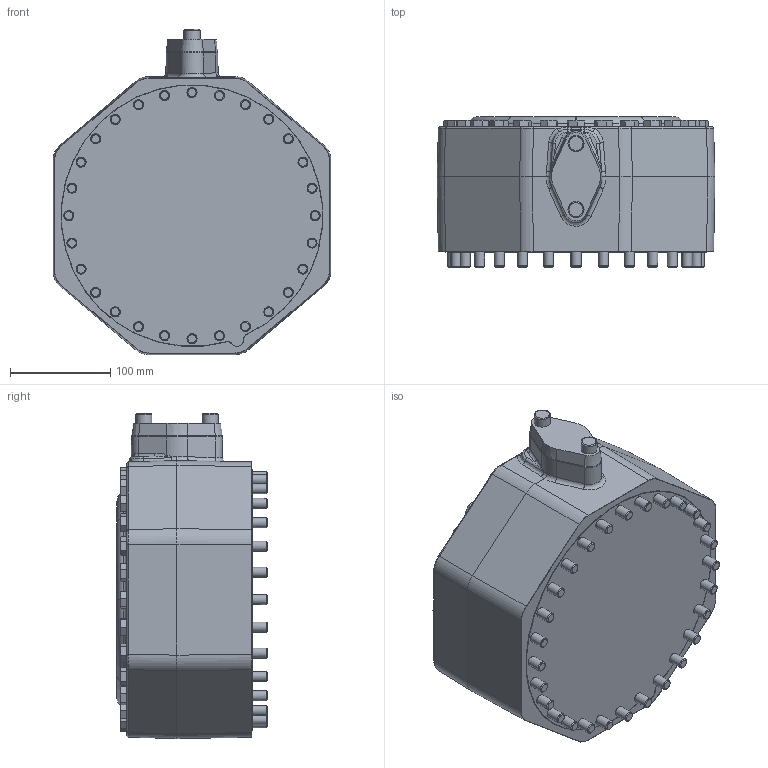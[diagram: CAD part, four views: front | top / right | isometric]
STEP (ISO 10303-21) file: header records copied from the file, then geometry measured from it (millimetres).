
FILE_DESCRIPTION(/* description */ (''),/* implementation_level */ '2;1');
FILE_NAME(/* name */ '4GTEU30-4FTEU30-4DTEU-4CTEU.stp',/* time_stamp */ '2023-11-09T10:32:36+01:00',/* author */ (''),/* organization */ (''),/* preprocessor_version */ 'ST-DEVELOPER v19.3',/* originating_system */ 'SIEMENS PLM Software NX2212.3001',/* authorisation */ '');
FILE_SCHEMA (('AUTOMOTIVE_DESIGN { 1 0 10303 214 3 1 1 1 }'));
Length unit declared in the file: millimetre
Products named in the file (3): BLIND-FLANGE-OVAL; HOUSING-COVER-CKH4-DEEP-ROUN; 4GTEU30-4FTEU30-4DTEU-4CTEU
Assembly tree (2 placements, depth 2):
  4GTEU30-4FTEU30-4DTEU-4CTEU
    HOUSING-COVER-CKH4-DEEP-ROUN
    BLIND-FLANGE-OVAL
Bounding box: 277.6 x 150 x 324.8 mm (x, y, z)
Volume: 8466185.6 mm3; surface area: 280586.8 mm2
Topology: 2 solids, 3 shells, 651 faces, 1512 edges, 931 vertices
Faces by surface type: plane 280, cone 210, cylinder 105, bspline 38, torus 18
Full cylindrical faces by diameter (mm): 8.782 x2, 10 x30, 16 x2, 32 x1
Entity records: 23219 total; most frequent: CARTESIAN_POINT 4862, ORIENTED_EDGE 2824, DIRECTION 2750, EDGE_CURVE 1412, AXIS2_PLACEMENT_3D 1103, VERTEX_POINT 900, EDGE_LOOP 786, ADVANCED_FACE 651
